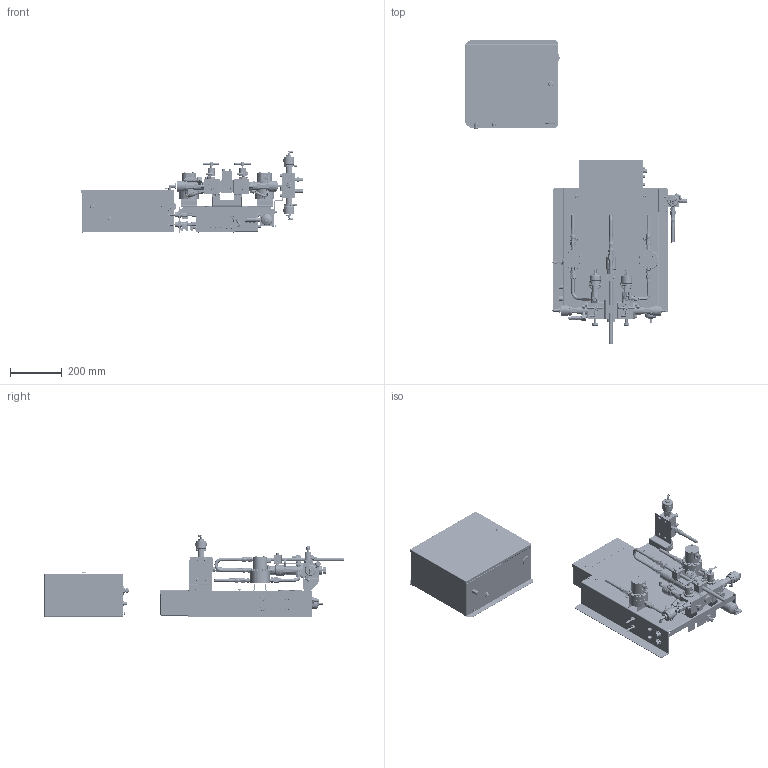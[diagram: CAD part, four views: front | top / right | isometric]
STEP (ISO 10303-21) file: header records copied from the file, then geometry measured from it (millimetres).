
FILE_DESCRIPTION((''),'2;1');
FILE_NAME('AE100N-EN-D_PRT','2020-01-01T11:58:40',('qusrh3'),(''),'CREO PARAMETRIC BY PTC INC, 2019030','CREO PARAMETRIC BY PTC INC, 2019030','');
FILE_SCHEMA(('CONFIG_CONTROL_DESIGN'));
Products named in the file (1): AE100N-EN-D_PRT
Bounding box: 856.89 x 1176.94 x 319.8 mm (x, y, z)
Surface area: 2394593.2 mm2 (no closed solid volume)
Topology: 0 solids, 765 shells, 4433 faces, 12397 edges, 8381 vertices
Faces by surface type: plane 1904, cylinder 1390, cone 816, torus 182, bspline 109, sphere 32
Entity records: 170567 total; most frequent: CARTESIAN_POINT 61705, DIRECTION 23151, ORIENTED_EDGE 20118, EDGE_CURVE 12374, AXIS2_PLACEMENT_3D 8738, VERTEX_POINT 8381, VECTOR 5675, LINE 5675
